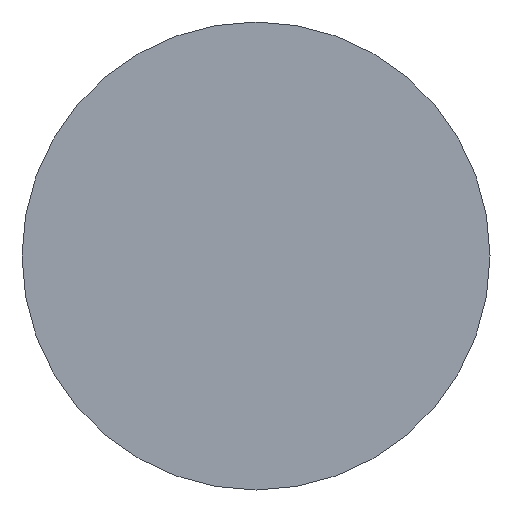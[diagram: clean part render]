
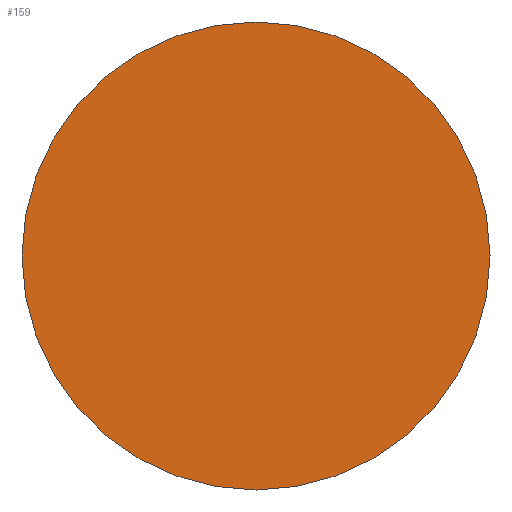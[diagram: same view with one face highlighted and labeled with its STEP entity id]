
A CAD part, front view. The second image highlights one B-rep face of the part: STEP entity #159.
In plain terms, the highlighted planar face has unit normal (0, -1, 0).
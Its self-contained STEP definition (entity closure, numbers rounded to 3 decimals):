
#21 = CARTESIAN_POINT ( 'NONE',  ( 0., 0., -6.5 ) ) ;
#34 = EDGE_CURVE ( 'NONE', #202, #198, #115, .T. ) ;
#35 = DIRECTION ( 'NONE',  ( 0., 0., 1. ) ) ;
#41 = AXIS2_PLACEMENT_3D ( 'NONE', #50, #155, #35 ) ;
#49 = DIRECTION ( 'NONE',  ( 0., 1., 0. ) ) ;
#50 = CARTESIAN_POINT ( 'NONE',  ( 0., 0., 0. ) ) ;
#54 = AXIS2_PLACEMENT_3D ( 'NONE', #62, #165, #185 ) ;
#62 = CARTESIAN_POINT ( 'NONE',  ( 0., 0., 0. ) ) ;
#64 = CARTESIAN_POINT ( 'NONE',  ( 0., 0., 0. ) ) ;
#66 = FACE_OUTER_BOUND ( 'NONE', #253, .T. ) ;
#106 = DIRECTION ( 'NONE',  ( 0., 0., 1. ) ) ;
#108 = ORIENTED_EDGE ( 'NONE', *, *, #34, .F. ) ;
#115 = CIRCLE ( 'NONE', #199, 6.5 ) ;
#155 = DIRECTION ( 'NONE',  ( 0., 1., 0. ) ) ;
#156 = ORIENTED_EDGE ( 'NONE', *, *, #212, .F. ) ;
#159 = ADVANCED_FACE ( 'NONE', ( #66 ), #191, .F. ) ;
#165 = DIRECTION ( 'NONE',  ( 0., 1., 0. ) ) ;
#185 = DIRECTION ( 'NONE',  ( 0., 0., 1. ) ) ;
#191 = PLANE ( 'NONE',  #41 ) ;
#198 = VERTEX_POINT ( 'NONE', #250 ) ;
#199 = AXIS2_PLACEMENT_3D ( 'NONE', #64, #49, #106 ) ;
#202 = VERTEX_POINT ( 'NONE', #21 ) ;
#208 = CIRCLE ( 'NONE', #54, 6.5 ) ;
#212 = EDGE_CURVE ( 'NONE', #198, #202, #208, .T. ) ;
#250 = CARTESIAN_POINT ( 'NONE',  ( 0., 0., 6.5 ) ) ;
#253 = EDGE_LOOP ( 'NONE', ( #108, #156 ) ) ;
